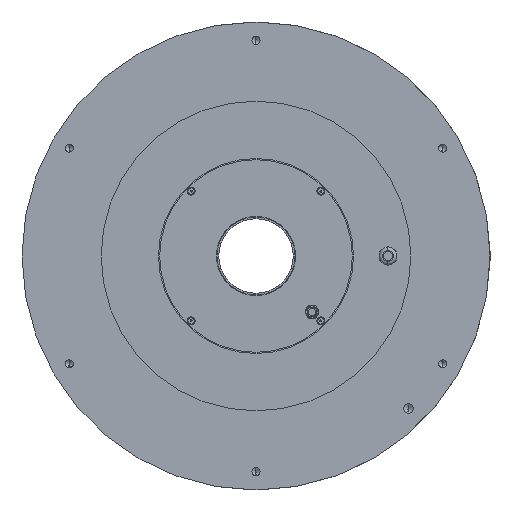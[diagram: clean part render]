
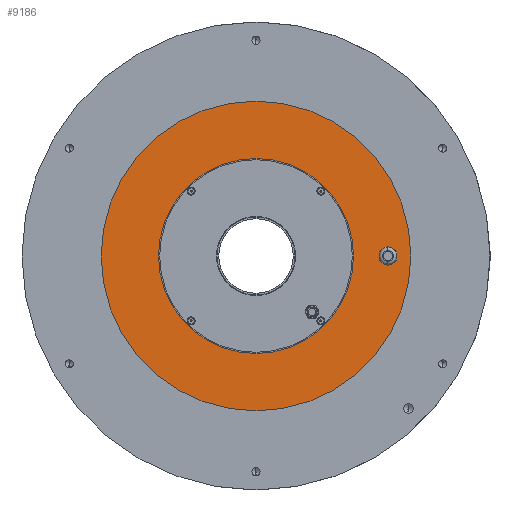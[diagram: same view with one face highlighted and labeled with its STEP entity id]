
A CAD part, front view. The second image highlights one B-rep face of the part: STEP entity #9186.
In plain terms, the highlighted planar face has unit normal (0, -1, 0).
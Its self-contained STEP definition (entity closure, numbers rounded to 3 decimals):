
#56 = CARTESIAN_POINT ( 'NONE',  ( 0., 0., 0. ) ) ;
#92 = CIRCLE ( 'NONE', #24149, 85. ) ;
#1555 = EDGE_CURVE ( 'NONE', #2385, #22323, #29486, .T. ) ;
#1801 = CARTESIAN_POINT ( 'NONE',  ( 85., 0., 0. ) ) ;
#2385 = VERTEX_POINT ( 'NONE', #32120 ) ;
#2498 = DIRECTION ( 'NONE',  ( 0., 0., -1. ) ) ;
#3412 = CIRCLE ( 'NONE', #7345, 85. ) ;
#4314 = CARTESIAN_POINT ( 'NONE',  ( 115., 0., -5.25 ) ) ;
#4426 = PLANE ( 'NONE',  #31889 ) ;
#4546 = DIRECTION ( 'NONE',  ( 0., 1., 0. ) ) ;
#4589 = DIRECTION ( 'NONE',  ( 0., -1., 0. ) ) ;
#4805 = EDGE_CURVE ( 'NONE', #22323, #2385, #27106, .T. ) ;
#5288 = DIRECTION ( 'NONE',  ( 0., 1., 0. ) ) ;
#5658 = DIRECTION ( 'NONE',  ( 0., 0., -1. ) ) ;
#6847 = EDGE_CURVE ( 'NONE', #9083, #26077, #24178, .T. ) ;
#7345 = AXIS2_PLACEMENT_3D ( 'NONE', #21140, #10092, #18489 ) ;
#8425 = CARTESIAN_POINT ( 'NONE',  ( 115., 0., 0. ) ) ;
#8582 = CARTESIAN_POINT ( 'NONE',  ( 0., 0., 0. ) ) ;
#8640 = AXIS2_PLACEMENT_3D ( 'NONE', #8425, #5288, #10368 ) ;
#8882 = ORIENTED_EDGE ( 'NONE', *, *, #18619, .T. ) ;
#9083 = VERTEX_POINT ( 'NONE', #27249 ) ;
#9186 = ADVANCED_FACE ( 'NONE', ( #28431, #9516, #33913 ), #4426, .T. ) ;
#9516 = FACE_OUTER_BOUND ( 'NONE', #16752, .T. ) ;
#10092 = DIRECTION ( 'NONE',  ( 0., -1., 0. ) ) ;
#10368 = DIRECTION ( 'NONE',  ( 0., 0., 1. ) ) ;
#10437 = AXIS2_PLACEMENT_3D ( 'NONE', #8582, #32966, #20310 ) ;
#11969 = EDGE_LOOP ( 'NONE', ( #17982, #8882 ) ) ;
#11987 = AXIS2_PLACEMENT_3D ( 'NONE', #56, #24237, #5658 ) ;
#12027 = VERTEX_POINT ( 'NONE', #12371 ) ;
#12071 = EDGE_CURVE ( 'NONE', #16150, #12027, #3412, .T. ) ;
#12371 = CARTESIAN_POINT ( 'NONE',  ( 0., 0., -85. ) ) ;
#15229 = DIRECTION ( 'NONE',  ( 0., 0., 1. ) ) ;
#16150 = VERTEX_POINT ( 'NONE', #34016 ) ;
#16752 = EDGE_LOOP ( 'NONE', ( #19873, #18259 ) ) ;
#17982 = ORIENTED_EDGE ( 'NONE', *, *, #6847, .T. ) ;
#18259 = ORIENTED_EDGE ( 'NONE', *, *, #1555, .T. ) ;
#18489 = DIRECTION ( 'NONE',  ( 0., 0., -1. ) ) ;
#18619 = EDGE_CURVE ( 'NONE', #26077, #9083, #32735, .T. ) ;
#19799 = DIRECTION ( 'NONE',  ( 0., -1., 0. ) ) ;
#19873 = ORIENTED_EDGE ( 'NONE', *, *, #4805, .T. ) ;
#20310 = DIRECTION ( 'NONE',  ( 0., 0., -1. ) ) ;
#21140 = CARTESIAN_POINT ( 'NONE',  ( 0., 0., 0. ) ) ;
#21644 = ORIENTED_EDGE ( 'NONE', *, *, #33387, .F. ) ;
#22323 = VERTEX_POINT ( 'NONE', #34245 ) ;
#22430 = DIRECTION ( 'NONE',  ( 0., 0., -1. ) ) ;
#24149 = AXIS2_PLACEMENT_3D ( 'NONE', #28788, #4589, #2498 ) ;
#24178 = CIRCLE ( 'NONE', #32627, 5.25 ) ;
#24237 = DIRECTION ( 'NONE',  ( 0., -1., 0. ) ) ;
#24415 = EDGE_LOOP ( 'NONE', ( #21644, #29620 ) ) ;
#26077 = VERTEX_POINT ( 'NONE', #4314 ) ;
#27106 = CIRCLE ( 'NONE', #11987, 135. ) ;
#27249 = CARTESIAN_POINT ( 'NONE',  ( 115., 0., 5.25 ) ) ;
#28431 = FACE_BOUND ( 'NONE', #11969, .T. ) ;
#28788 = CARTESIAN_POINT ( 'NONE',  ( 0., 0., 0. ) ) ;
#29486 = CIRCLE ( 'NONE', #10437, 135. ) ;
#29620 = ORIENTED_EDGE ( 'NONE', *, *, #12071, .F. ) ;
#31889 = AXIS2_PLACEMENT_3D ( 'NONE', #1801, #19799, #22430 ) ;
#32120 = CARTESIAN_POINT ( 'NONE',  ( 0., 0., 135. ) ) ;
#32627 = AXIS2_PLACEMENT_3D ( 'NONE', #33863, #4546, #15229 ) ;
#32735 = CIRCLE ( 'NONE', #8640, 5.25 ) ;
#32966 = DIRECTION ( 'NONE',  ( 0., -1., 0. ) ) ;
#33387 = EDGE_CURVE ( 'NONE', #12027, #16150, #92, .T. ) ;
#33863 = CARTESIAN_POINT ( 'NONE',  ( 115., 0., 0. ) ) ;
#33913 = FACE_BOUND ( 'NONE', #24415, .T. ) ;
#34016 = CARTESIAN_POINT ( 'NONE',  ( 0., 0., 85. ) ) ;
#34245 = CARTESIAN_POINT ( 'NONE',  ( 0., 0., -135. ) ) ;
